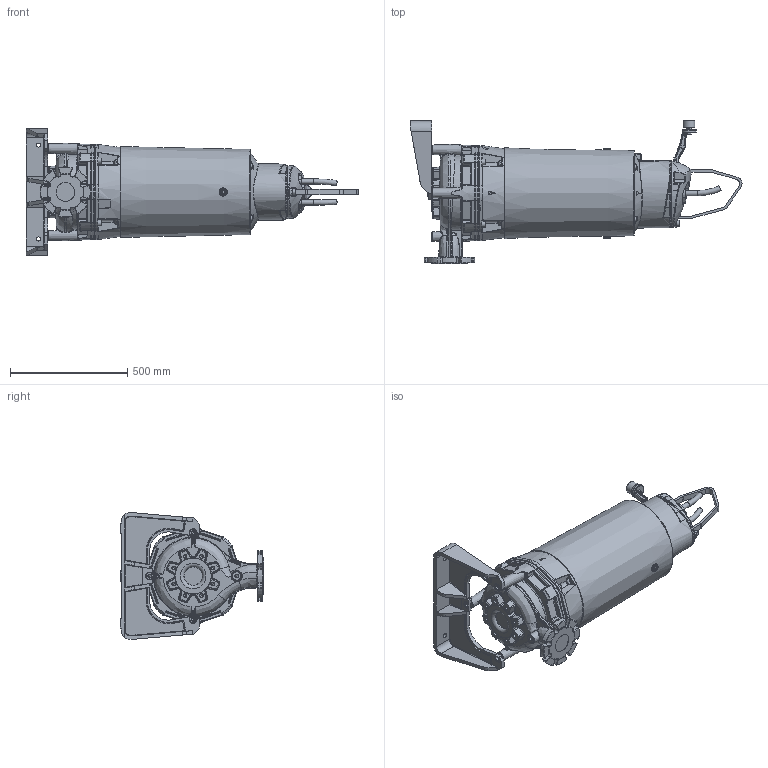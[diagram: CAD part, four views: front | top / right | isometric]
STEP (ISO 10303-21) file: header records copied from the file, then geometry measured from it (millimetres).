
FILE_DESCRIPTION (( 'STEP AP203' ), '1' );
FILE_NAME ('PE3.5 101G VX DRY Horizontal.STEP', '2018-08-16T09:58:11', ( '' ), ( '' ), 'SwSTEP 2.0', 'SolidWorks 2017', '' );
FILE_SCHEMA (( 'CONFIG_CONTROL_DESIGN' ));
Length unit declared in the file: millimetre
Products named in the file (2): PE3.5 101G VX DRY Horizontal
Bounding box: 1414.4 x 610 x 540.84 mm (x, y, z)
Volume: 151494377.8 mm3; surface area: 4223151.8 mm2
Topology: 35 solids, 35 shells, 3377 faces, 7843 edges, 4482 vertices
Faces by surface type: cylinder 1123, bspline 970, plane 756, torus 337, cone 110, sphere 81
Full cylindrical faces by diameter (mm): 2.9 x4, 5 x2, 6 x2, 6.8 x7, 8 x7, 9 x7, 10 x5, 10.2 x8, 10.5 x1, 11 x6, 12 x19, 12.5 x4, 13 x12, 14 x16, 15 x5, 16 x24, 17 x6, 17.5 x2, 18 x22, 20 x7, 20.955 x1, 22 x2, 24 x6, 26 x6, 38 x2, 40 x2, 50 x1, 60 x1, 200 x2, 273 x2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
Entity records: 136428 total; most frequent: CARTESIAN_POINT 70041, ORIENTED_EDGE 14432, DIRECTION 12412, EDGE_CURVE 7216, AXIS2_PLACEMENT_3D 5076, VERTEX_POINT 4373, EDGE_LOOP 3939, FACE_OUTER_BOUND 3645
